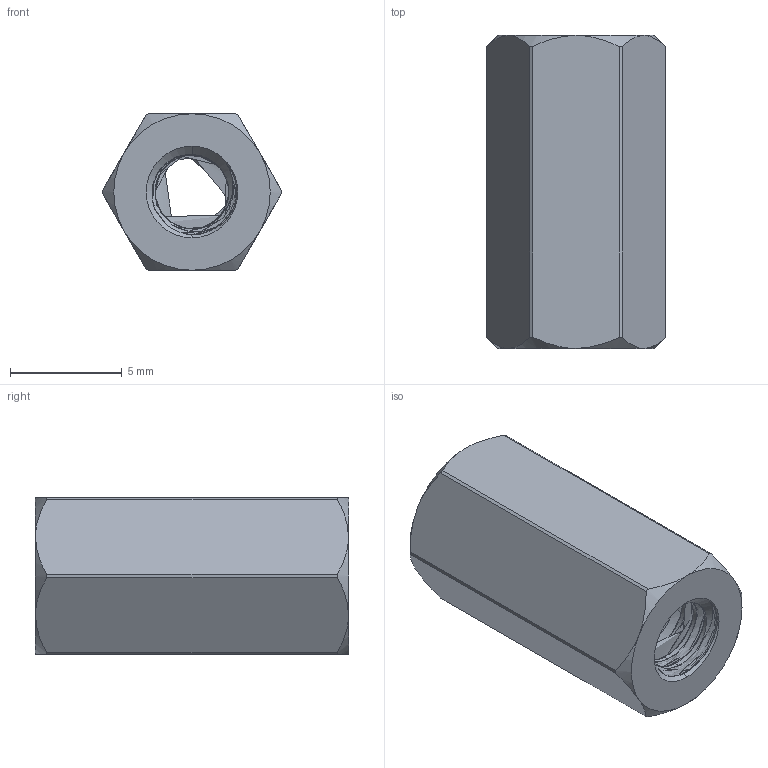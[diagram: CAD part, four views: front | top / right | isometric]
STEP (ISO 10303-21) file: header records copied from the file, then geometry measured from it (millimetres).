
FILE_DESCRIPTION (( 'STEP AP203' ), '1' );
FILE_NAME ('1516-4008-0140.STEP', '2022-07-13T21:13:28', ( '' ), ( '' ), 'SwSTEP 2.0', 'SolidWorks 2016', '' );
FILE_SCHEMA (( 'CONFIG_CONTROL_DESIGN' ));
Length unit declared in the file: millimetre
Products named in the file (1): 1516-4008-0140
Bounding box: 8 x 14 x 7 mm (x, y, z)
Volume: 449.2 mm3; surface area: 641.4 mm2
Topology: 1 solids, 1 shells, 113 faces, 320 edges, 209 vertices
Faces by surface type: cylinder 86, cone 17, plane 8, bspline 2
Entity records: 6800 total; most frequent: CARTESIAN_POINT 4307, ORIENTED_EDGE 640, DIRECTION 387, EDGE_CURVE 320, VERTEX_POINT 209, AXIS2_PLACEMENT_3D 146, EDGE_LOOP 115, FACE_OUTER_BOUND 113
